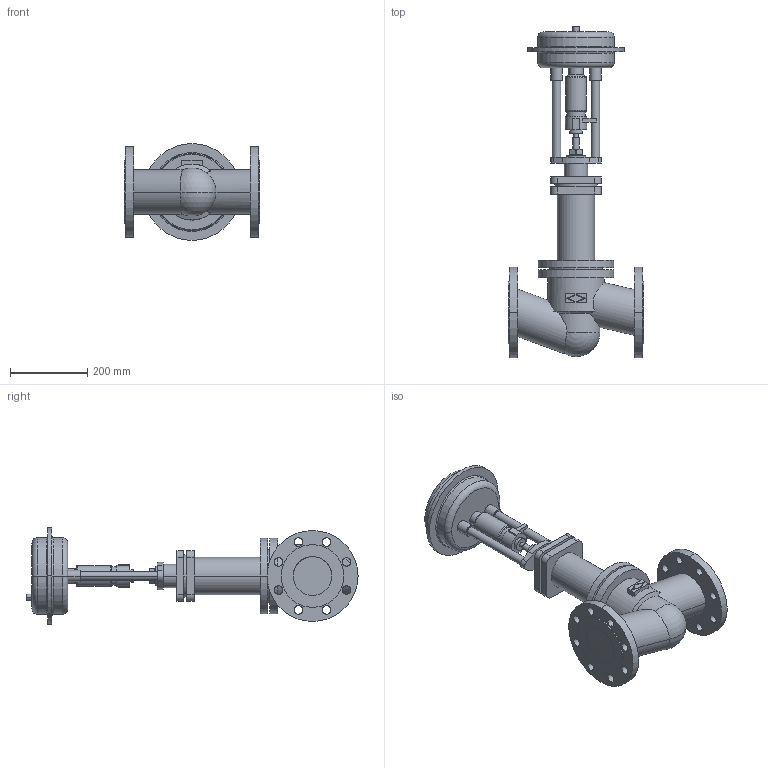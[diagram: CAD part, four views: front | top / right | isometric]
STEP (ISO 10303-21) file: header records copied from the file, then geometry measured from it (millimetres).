
FILE_DESCRIPTION(('OneSpaceDesigner STEP Export'),'2;1');
FILE_NAME('c000002088.stp','2005-12-12T11:49:23',(''),(''),'OneSpace Designer STEP processor for AP203 (Solid Model)','OneSpace Designer 13.20A 18-Aug-2005 (C) CoCreate Software GmbH','');
FILE_SCHEMA(('CONFIG_CONTROL_DESIGN'));
Length unit declared in the file: millimetre
Products named in the file (1): 1
Bounding box: 350 x 857.7 x 250 mm (x, y, z)
Volume: 13402331.4 mm3; surface area: 780732.6 mm2
Topology: 1 solids, 1 shells, 222 faces, 547 edges, 357 vertices
Faces by surface type: cylinder 116, plane 82, torus 16, cone 6, sphere 2
Entity records: 6219 total; most frequent: CARTESIAN_POINT 1257, ORIENTED_EDGE 1090, DIRECTION 909, EDGE_CURVE 545, VERTEX_POINT 357, AXIS2_PLACEMENT_3D 330, EDGE_LOOP 290, VECTOR 249
